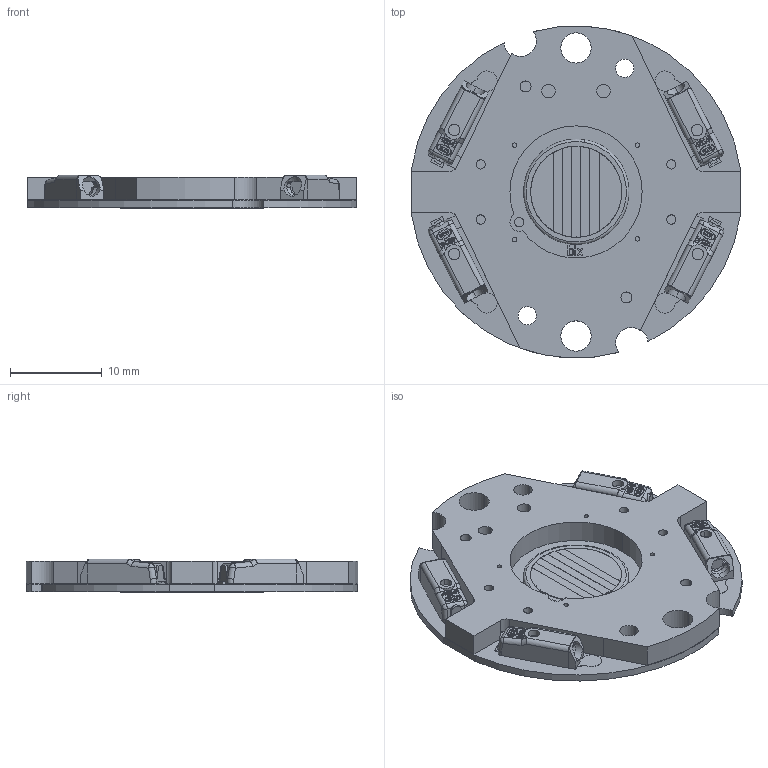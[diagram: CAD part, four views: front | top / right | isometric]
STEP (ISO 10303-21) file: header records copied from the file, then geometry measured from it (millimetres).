
FILE_DESCRIPTION (( 'STEP AP214' ), '1' );
FILE_NAME ('NTW 9 Holder-CoB Assembly.STEP', '2020-06-22T22:05:10', ( '' ), ( '' ), 'SwSTEP 2.0', 'SolidWorks 2020', '' );
FILE_SCHEMA (( 'AUTOMOTIVE_DESIGN' ));
Length unit declared in the file: millimetre
Products named in the file (1): NTW 9 Holder-CoB Assembly
Bounding box: 35.86 x 36.17 x 3.7 mm (x, y, z)
Volume: 2438.1 mm3; surface area: 4295.4 mm2
Topology: 1 solids, 1 shells, 1634 faces, 4454 edges, 2926 vertices
Faces by surface type: plane 1005, cylinder 519, bspline 80, torus 18, sphere 8, cone 4
Entity records: 78123 total; most frequent: CARTESIAN_POINT 18752, ORIENTED_EDGE 8892, DIRECTION 8207, EDGE_CURVE 4446, VECTOR 3101, LINE 3101, VERTEX_POINT 2926, AXIS2_PLACEMENT_3D 2553
